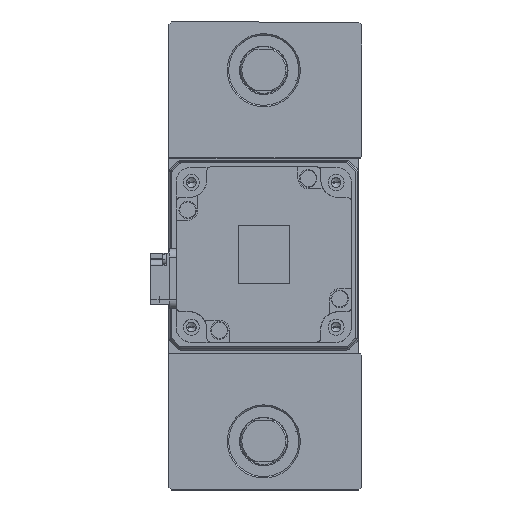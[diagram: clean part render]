
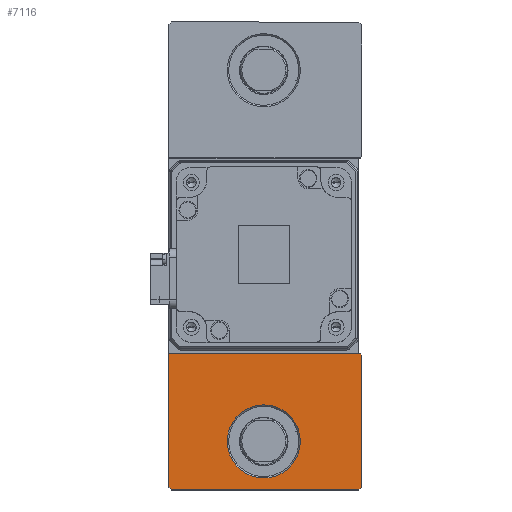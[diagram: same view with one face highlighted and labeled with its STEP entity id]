
A CAD part, top view. The second image highlights one B-rep face of the part: STEP entity #7116.
In plain terms, the highlighted planar face has unit normal (0, 0, 1).
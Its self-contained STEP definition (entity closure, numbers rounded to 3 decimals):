
#90 = LINE ( 'NONE', #11317, #6095 ) ;
#1462 = CARTESIAN_POINT ( 'NONE',  ( 33.5, -34., 25. ) ) ;
#3963 = CARTESIAN_POINT ( 'NONE',  ( -32.5, -33.5, 25. ) ) ;
#4052 = CARTESIAN_POINT ( 'NONE',  ( -31.5, -80., 25. ) ) ;
#4096 = EDGE_CURVE ( 'NONE', #12937, #36764, #27782, .T. ) ;
#4219 = VECTOR ( 'NONE', #33018, 1000. ) ;
#4788 = EDGE_CURVE ( 'NONE', #32676, #15421, #18492, .T. ) ;
#5197 = DIRECTION ( 'NONE',  ( -1., 0., 0. ) ) ;
#6095 = VECTOR ( 'NONE', #29019, 1000. ) ;
#6250 = EDGE_LOOP ( 'NONE', ( #28066, #20655 ) ) ;
#6690 = CARTESIAN_POINT ( 'NONE',  ( 0., -63.5, 25. ) ) ;
#7116 = ADVANCED_FACE ( 'NONE', ( #37544, #28722 ), #22989, .T. ) ;
#7253 = LINE ( 'NONE', #12085, #22071 ) ;
#7395 = ORIENTED_EDGE ( 'NONE', *, *, #25266, .T. ) ;
#8215 = CARTESIAN_POINT ( 'NONE',  ( 0., -63.5, 25. ) ) ;
#9663 = DIRECTION ( 'NONE',  ( 1., 0., 0. ) ) ;
#10212 = VECTOR ( 'NONE', #25649, 1000. ) ;
#10627 = VECTOR ( 'NONE', #5197, 1000. ) ;
#10884 = VECTOR ( 'NONE', #31699, 1000. ) ;
#11183 = DIRECTION ( 'NONE',  ( 1., 0., 0. ) ) ;
#11317 = CARTESIAN_POINT ( 'NONE',  ( -32.5, -33.5, 25. ) ) ;
#12085 = CARTESIAN_POINT ( 'NONE',  ( -32.5, -80., 25. ) ) ;
#12659 = AXIS2_PLACEMENT_3D ( 'NONE', #17013, #14173, #34884 ) ;
#12819 = CARTESIAN_POINT ( 'NONE',  ( 33.5, -79., 25. ) ) ;
#12894 = VERTEX_POINT ( 'NONE', #4052 ) ;
#12937 = VERTEX_POINT ( 'NONE', #1462 ) ;
#14173 = DIRECTION ( 'NONE',  ( 0., 0., 1. ) ) ;
#14738 = ORIENTED_EDGE ( 'NONE', *, *, #4788, .T. ) ;
#15302 = CARTESIAN_POINT ( 'NONE',  ( -0.25, -0.25, 25. ) ) ;
#15421 = VERTEX_POINT ( 'NONE', #12819 ) ;
#16974 = CARTESIAN_POINT ( 'NONE',  ( 33.5, -33.5, 25. ) ) ;
#17013 = CARTESIAN_POINT ( 'NONE',  ( 0., 0., 25. ) ) ;
#17310 = CARTESIAN_POINT ( 'NONE',  ( 33., -33.5, 25. ) ) ;
#18492 = LINE ( 'NONE', #33751, #19422 ) ;
#18632 = EDGE_CURVE ( 'NONE', #15421, #12937, #24744, .T. ) ;
#19422 = VECTOR ( 'NONE', #36718, 1000. ) ;
#19902 = CARTESIAN_POINT ( 'NONE',  ( -32.5, -33.5, 25. ) ) ;
#20055 = ORIENTED_EDGE ( 'NONE', *, *, #23298, .T. ) ;
#20589 = CARTESIAN_POINT ( 'NONE',  ( 12.5, -63.5, 25. ) ) ;
#20655 = ORIENTED_EDGE ( 'NONE', *, *, #37503, .T. ) ;
#21525 = ORIENTED_EDGE ( 'NONE', *, *, #25936, .T. ) ;
#21627 = CIRCLE ( 'NONE', #27313, 12.5 ) ;
#22071 = VECTOR ( 'NONE', #29796, 1000. ) ;
#22696 = CARTESIAN_POINT ( 'NONE',  ( -55.75, -55.75, 25. ) ) ;
#22989 = PLANE ( 'NONE',  #12659 ) ;
#23081 = EDGE_CURVE ( 'NONE', #29562, #31645, #21627, .T. ) ;
#23298 = EDGE_CURVE ( 'NONE', #12894, #32676, #7253, .T. ) ;
#23804 = VERTEX_POINT ( 'NONE', #35221 ) ;
#24744 = LINE ( 'NONE', #16974, #10884 ) ;
#25069 = VERTEX_POINT ( 'NONE', #3963 ) ;
#25266 = EDGE_CURVE ( 'NONE', #23804, #12894, #33833, .T. ) ;
#25471 = CARTESIAN_POINT ( 'NONE',  ( 32.5, -80., 25. ) ) ;
#25649 = DIRECTION ( 'NONE',  ( 0.707, -0.707, 0. ) ) ;
#25936 = EDGE_CURVE ( 'NONE', #36764, #25069, #26366, .T. ) ;
#26366 = LINE ( 'NONE', #19902, #10627 ) ;
#26448 = ORIENTED_EDGE ( 'NONE', *, *, #18632, .T. ) ;
#27313 = AXIS2_PLACEMENT_3D ( 'NONE', #8215, #28886, #11183 ) ;
#27365 = DIRECTION ( 'NONE',  ( 0., 0., -1. ) ) ;
#27782 = LINE ( 'NONE', #15302, #4219 ) ;
#28066 = ORIENTED_EDGE ( 'NONE', *, *, #23081, .T. ) ;
#28722 = FACE_OUTER_BOUND ( 'NONE', #30896, .T. ) ;
#28886 = DIRECTION ( 'NONE',  ( 0., 0., -1. ) ) ;
#29019 = DIRECTION ( 'NONE',  ( 0., -1., 0. ) ) ;
#29035 = AXIS2_PLACEMENT_3D ( 'NONE', #6690, #27365, #9663 ) ;
#29562 = VERTEX_POINT ( 'NONE', #20589 ) ;
#29796 = DIRECTION ( 'NONE',  ( 1., 0., 0. ) ) ;
#30896 = EDGE_LOOP ( 'NONE', ( #20055, #14738, #26448, #37238, #21525, #34134, #7395 ) ) ;
#31645 = VERTEX_POINT ( 'NONE', #31908 ) ;
#31699 = DIRECTION ( 'NONE',  ( 0., 1., 0. ) ) ;
#31908 = CARTESIAN_POINT ( 'NONE',  ( -12.5, -63.5, 25. ) ) ;
#32676 = VERTEX_POINT ( 'NONE', #25471 ) ;
#32946 = CIRCLE ( 'NONE', #29035, 12.5 ) ;
#33018 = DIRECTION ( 'NONE',  ( -0.707, 0.707, 0. ) ) ;
#33751 = CARTESIAN_POINT ( 'NONE',  ( 56.25, -56.25, 25. ) ) ;
#33833 = LINE ( 'NONE', #22696, #10212 ) ;
#34134 = ORIENTED_EDGE ( 'NONE', *, *, #37874, .T. ) ;
#34884 = DIRECTION ( 'NONE',  ( 1., 0., 0. ) ) ;
#35221 = CARTESIAN_POINT ( 'NONE',  ( -32.5, -79., 25. ) ) ;
#36718 = DIRECTION ( 'NONE',  ( 0.707, 0.707, 0. ) ) ;
#36764 = VERTEX_POINT ( 'NONE', #17310 ) ;
#37238 = ORIENTED_EDGE ( 'NONE', *, *, #4096, .T. ) ;
#37503 = EDGE_CURVE ( 'NONE', #31645, #29562, #32946, .T. ) ;
#37544 = FACE_BOUND ( 'NONE', #6250, .T. ) ;
#37874 = EDGE_CURVE ( 'NONE', #25069, #23804, #90, .T. ) ;
